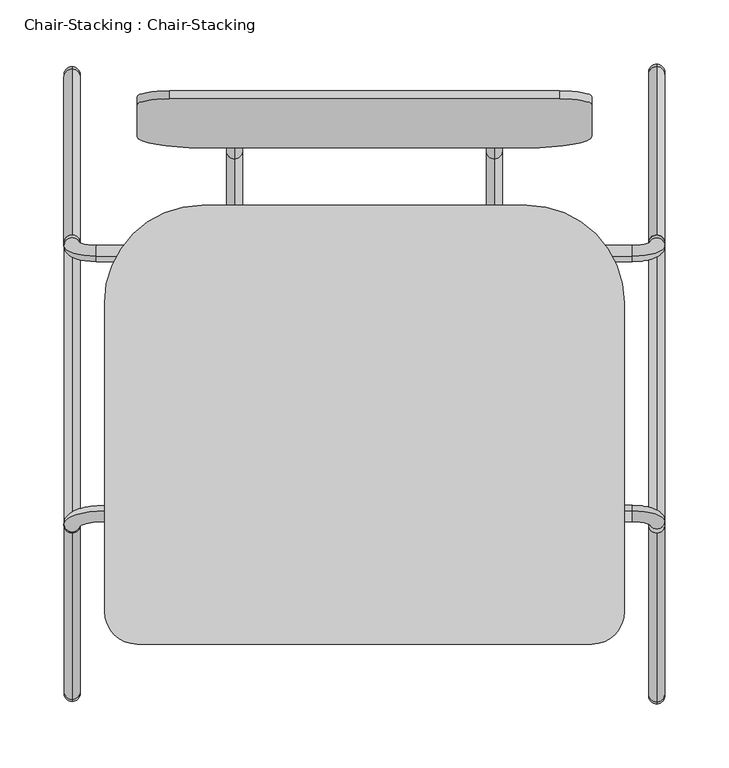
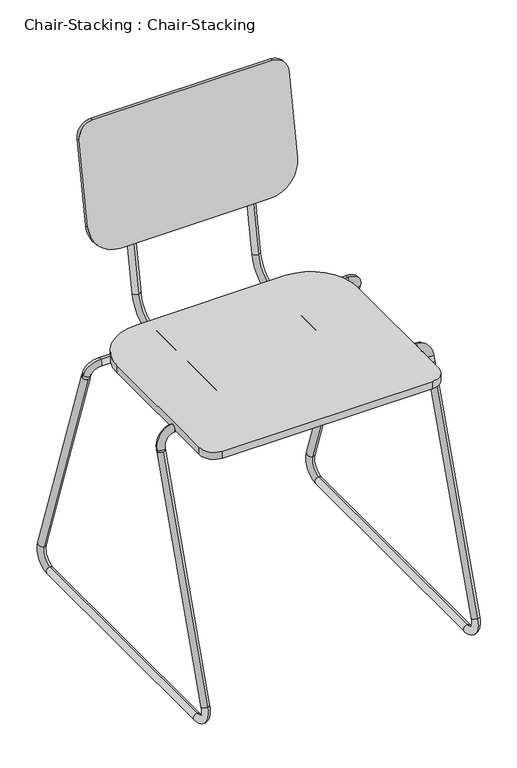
"""IFC4 building model written with IfcOpenShell, lengths in millimetres: furniture geometry, Chair-Stacking : Chair-Stacking."""

import ifcopenshell
import ifcopenshell.guid

model = None  # the IFC model being written
_history = None  # IfcOwnerHistory: only IFC2X3 demands one
_inside = {}  # id of a spatial element -> (the spatial element, [elements in it])
_under = {}  # id of a project, library or spatial element -> (it, [spatial elements below it])
_declared = {}  # id of a project -> (the project, [libraries it declares])
_typed = {}  # id of a type object -> (the type object, [elements of that type])
_made_of = {}  # id of a material, layer set ... -> (it, [elements and type objects made of it])


def new_model(schema):
    """Start an empty IFC model of exactly this schema.

    Asked for "IFC4X3", IfcOpenShell would pick the latest addendum, in which some entities
    have other attributes; the version numbers below select the first issue.
    IFC2X3 requires an IfcOwnerHistory on every rooted entity: one is made here for all.
    """
    global model, _history
    if schema == "IFC4X3":
        model = ifcopenshell.file(schema_version=(4, 3, 0, 0))
    else:
        model = ifcopenshell.file(schema=schema)
    _inside.clear()
    _under.clear()
    _declared.clear()
    _typed.clear()
    _made_of.clear()
    _history = None
    if model.schema == "IFC2X3":
        org = make("IfcOrganization", Name="unknown")
        user = make(
            "IfcPersonAndOrganization",
            ThePerson=make("IfcPerson", FamilyName="unknown"),
            TheOrganization=org,
        )
        app = make(
            "IfcApplication",
            ApplicationDeveloper=org,
            Version="unknown",
            ApplicationFullName="unknown",
            ApplicationIdentifier="unknown",
        )
        _history = make(
            "IfcOwnerHistory",
            OwningUser=user,
            OwningApplication=app,
            ChangeAction="ADDED",
            CreationDate=0,
        )
    return model


def make(cls, **values):
    """One entity of the class cls with the attributes given. An attribute that is None is left unset."""
    return model.create_entity(
        cls, **{name: value for name, value in values.items() if value is not None}
    )


def rooted(cls, **values):
    """An entity with a GlobalId (a new one), such as an element, a storey or a relation."""
    return make(cls, GlobalId=ifcopenshell.guid.new(), OwnerHistory=_history, **values)


def si_unit(unit_type, name, prefix=None):
    """IfcSIUnit, for example si_unit("LENGTHUNIT", "METRE", prefix="MILLI")."""
    return make("IfcSIUnit", UnitType=unit_type, Prefix=prefix, Name=name)


def assignment(units):
    """IfcUnitAssignment: the units of a project."""
    return None if units is None else make("IfcUnitAssignment", Units=units)


def point(xyz):
    """IfcCartesianPoint."""
    return None if xyz is None else make("IfcCartesianPoint", Coordinates=xyz)


def direction(xyz):
    """IfcDirection."""
    return None if xyz is None else make("IfcDirection", DirectionRatios=xyz)


def frame(location, z_axis=None, x_axis=None):
    """IfcAxis2Placement3D, a coordinate frame: its origin and axes. An axis left out is left unset."""
    return make(
        "IfcAxis2Placement3D",
        Location=point(location),
        Axis=direction(z_axis),
        RefDirection=direction(x_axis),
    )


def frame_2d(location, x_axis=None):
    """IfcAxis2Placement2D, a coordinate frame in the plane: its origin and x axis."""
    return make(
        "IfcAxis2Placement2D", Location=point(location), RefDirection=direction(x_axis)
    )


def origin():
    """The frame at (0, 0, 0) with its axes left unset."""
    return frame((0.0, 0.0, 0.0))


def place(relative_to, where):
    """IfcLocalPlacement: puts the frame where relative to a parent placement (None: the world)."""
    return make(
        "IfcLocalPlacement", PlacementRelTo=relative_to, RelativePlacement=where
    )


def context(
    kind, dimensions, precision=None, world=None, true_north=None, identifier=None
):
    """IfcGeometricRepresentationContext, for example the 3D "Model" context."""
    return make(
        "IfcGeometricRepresentationContext",
        ContextIdentifier=identifier,
        ContextType=kind,
        CoordinateSpaceDimension=dimensions,
        Precision=precision,
        WorldCoordinateSystem=world,
        TrueNorth=true_north,
    )


def project(units=None, contexts=None):
    """IfcProject with its units and contexts."""
    return rooted(
        "IfcProject",
        Name="project",
        RepresentationContexts=contexts,
        UnitsInContext=assignment(units),
    )


def spatial(cls, under=None, at=None, **own):
    """A site, building, storey or space (cls), placed at a placement, below another one or the project."""
    s = rooted(cls, ObjectPlacement=at, **own)
    if under is not None:
        _under.setdefault(under.id(), (under, []))[1].append(s)
    return s


def polyline(points):
    """IfcPolyline through the points."""
    return make("IfcPolyline", Points=[point(p) for p in points])


def circle_curve(where, radius):
    """IfcCircle in the frame where."""
    return make("IfcCircle", Position=where, Radius=radius)


def ellipse_curve(where, semi_axis1, semi_axis2):
    """IfcEllipse in the frame where."""
    return make(
        "IfcEllipse", Position=where, SemiAxis1=semi_axis1, SemiAxis2=semi_axis2
    )


def trimmed(basis, trim1, trim2, sense, master):
    """IfcTrimmedCurve: the piece of a basis curve between two trims."""
    return make(
        "IfcTrimmedCurve",
        BasisCurve=basis,
        Trim1=trim1,
        Trim2=trim2,
        SenseAgreement=sense,
        MasterRepresentation=master,
    )


def segment(curve, same_sense, transition):
    """IfcCompositeCurveSegment."""
    return make(
        "IfcCompositeCurveSegment",
        Transition=transition,
        SameSense=same_sense,
        ParentCurve=curve,
    )


def composite_curve(segments, self_intersect=None):
    """IfcCompositeCurve: segments joined end to end."""
    return make("IfcCompositeCurve", Segments=segments, SelfIntersect=self_intersect)


def outline(outer, holes=None, kind="AREA"):
    """IfcArbitraryClosedProfileDef: a profile drawn as a closed curve; with holes, ...WithVoids."""
    if holes is None:
        return make("IfcArbitraryClosedProfileDef", ProfileType=kind, OuterCurve=outer)
    return make(
        "IfcArbitraryProfileDefWithVoids",
        ProfileType=kind,
        OuterCurve=outer,
        InnerCurves=holes,
    )


def extrude(swept, where, along, depth):
    """IfcExtrudedAreaSolid: the profile swept, set in the frame where, extruded along a direction by depth."""
    return make(
        "IfcExtrudedAreaSolid",
        SweptArea=swept,
        Position=where,
        ExtrudedDirection=direction(along),
        Depth=depth,
    )


def shape(context_of_items, identifier, shape_type, items):
    """IfcShapeRepresentation: the items that make up one representation, for example the "Body"."""
    return make(
        "IfcShapeRepresentation",
        ContextOfItems=context_of_items,
        RepresentationIdentifier=identifier,
        RepresentationType=shape_type,
        Items=items,
    )


def source(mapping_origin, context_of_items, identifier, shape_type, items):
    """IfcRepresentationMap: a shape defined once, which mapped items show again and again."""
    return make(
        "IfcRepresentationMap",
        MappingOrigin=mapping_origin,
        MappedRepresentation=shape(context_of_items, identifier, shape_type, items),
    )


def transform(
    local_origin,
    x_axis=None,
    y_axis=None,
    z_axis=None,
    scale=None,
    scale2=None,
    scale3=None,
    uniform=True,
):
    """IfcCartesianTransformationOperator3D, or its non-uniform kind. x_axis, y_axis, z_axis: its Axis1, 2, 3."""
    if uniform:
        return make(
            "IfcCartesianTransformationOperator3D",
            Axis1=direction(x_axis),
            Axis2=direction(y_axis),
            LocalOrigin=point(local_origin),
            Scale=scale,
            Axis3=direction(z_axis),
        )
    return make(
        "IfcCartesianTransformationOperator3DnonUniform",
        Axis1=direction(x_axis),
        Axis2=direction(y_axis),
        LocalOrigin=point(local_origin),
        Scale=scale,
        Axis3=direction(z_axis),
        Scale2=scale2,
        Scale3=scale3,
    )


def mapped(mapping_source, mapping_target):
    """IfcMappedItem: shows the shape of a source again, moved by a transform."""
    return make(
        "IfcMappedItem", MappingSource=mapping_source, MappingTarget=mapping_target
    )


def made_of(thing, what):
    """Note that an element or type object is made of a material, layer set ...; save() writes the relation."""
    if what is not None:
        _made_of.setdefault(what.id(), (what, []))[1].append(thing)
    return thing


def element(
    cls,
    number,
    at=None,
    inside=None,
    cuts=None,
    type_object=None,
    material=None,
    context=None,
    identifier="Body",
    shape_type=None,
    held_by="IfcProductDefinitionShape",
    body=None,
    shapes=None,
    **own,
):
    """One element of the class cls, such as IfcWall. Its Tag is "e" and its number.

    at: its placement. inside: the storey or other place that contains it. cuts: it is an
    opening in that element (IfcRelVoidsElement). A single representation is given by context,
    identifier, shape_type and body (its items); several are given by shapes. held_by: the class
    of the entity that holds the representations. save() writes the other relations.
    """
    e = rooted(cls, Tag="e%d" % number, ObjectPlacement=at, **own)
    if body is not None:
        shapes = [shape(context, identifier, shape_type, body)]
    if shapes is not None:
        e.Representation = make(held_by, Representations=shapes)
    if inside is not None:
        _inside.setdefault(inside.id(), (inside, []))[1].append(e)
    if cuts is not None:
        rooted(
            "IfcRelVoidsElement", RelatingBuildingElement=cuts, RelatedOpeningElement=e
        )
    if type_object is not None:
        _typed.setdefault(type_object.id(), (type_object, []))[1].append(e)
    return made_of(e, material)


def aggregate(whole, parts):
    """IfcRelAggregates: a whole, such as a stair, and the parts it consists of."""
    return rooted("IfcRelAggregates", RelatingObject=whole, RelatedObjects=parts)


def save(model, path):
    """Write the relations noted so far, then the file.

    IfcRelAggregates (storeys below a building ...), IfcRelContainedInSpatialStructure (elements
    in a storey), IfcRelDefinesByType, IfcRelAssociatesMaterial and IfcRelDeclares: one each for
    every whole, place, type object, material and project.
    """
    for whole, parts in _under.values():
        aggregate(whole, parts)
    for where, things in _inside.values():
        rooted(
            "IfcRelContainedInSpatialStructure",
            RelatedElements=things,
            RelatingStructure=where,
        )
    for kind, things in _typed.values():
        rooted("IfcRelDefinesByType", RelatedObjects=things, RelatingType=kind)
    for what, things in _made_of.values():
        rooted("IfcRelAssociatesMaterial", RelatedObjects=things, RelatingMaterial=what)
    for by, libraries in _declared.values():
        rooted("IfcRelDeclares", RelatingContext=by, RelatedDefinitions=libraries)
    model.write(path)


def plane_surface(at):
    """IfcPlane: the flat surface through the origin of the frame at, square to its z axis."""
    return make("IfcPlane", Position=at)


def cylinder_surface(at, radius):
    """IfcCylindricalSurface: all points at the distance radius from the z axis of the frame at."""
    return make("IfcCylindricalSurface", Position=at, Radius=radius)


def revolved_surface(curve, axis_point, axis_direction):
    """IfcSurfaceOfRevolution: the curve turned about the line through axis_point along axis_direction."""
    return make(
        "IfcSurfaceOfRevolution",
        SweptCurve=make("IfcArbitraryOpenProfileDef", ProfileType="CURVE", Curve=curve),
        AxisPosition=make("IfcAxis1Placement", Location=point(axis_point), Axis=direction(axis_direction)),
    )


def advanced_brep(points, edges, surfaces, faces):
    """IfcAdvancedBrep: a solid bounded by faces that lie on surfaces and meet in shared edges.

    An edge is (start, end): straight between two places in points (the first is 0);
    or (start, end, curve); or (start, end, curve, False) where it runs against its curve.
    A face is (place in surfaces, loops), or (place, loops, False) where it looks against
    its surface's normal. A loop lists edges by number (the first is 1), with a minus sign
    where the edge is run from its end to its start. The first loop is the outer one.
    """
    corners = [point(p) for p in points]
    vertices = [make("IfcVertexPoint", VertexGeometry=c) for c in corners]
    made = []
    for start, end, *more in edges:
        made.append(
            make(
                "IfcEdgeCurve",
                EdgeStart=vertices[start],
                EdgeEnd=vertices[end],
                EdgeGeometry=more[0] if more else make("IfcPolyline", Points=[corners[start], corners[end]]),
                SameSense=more[1] if len(more) > 1 else True,
            )
        )
    hull = []
    for where, loops, *sense in faces:
        bounds = []
        for j, loop in enumerate(loops):
            ring = [make("IfcOrientedEdge", EdgeElement=made[abs(k) - 1], Orientation=k > 0) for k in loop]
            bounds.append(
                make(
                    "IfcFaceOuterBound" if j == 0 else "IfcFaceBound",
                    Bound=make("IfcEdgeLoop", EdgeList=ring),
                    Orientation=True,
                )
            )
        hull.append(make("IfcAdvancedFace", Bounds=bounds, FaceSurface=surfaces[where], SameSense=sense[0] if sense else True))
    return make("IfcAdvancedBrep", Outer=make("IfcClosedShell", CfsFaces=hull))


def chair_stacking_chair_stacking_724ac724(model_context):
    return source(origin(), model_context, "Body", "SolidModel", [
        advanced_brep(
        [(-280.6491803, -213.2656675, 431.8), (-280.6491803, -213.2656675, 444.5), (-280.6491803, 23.0277124, 444.5), (-280.6491803, 23.0277124, 431.8), (-280.6491803, 66.802417, 481.2313385), (-280.6491803, 79.3094755, 479.0260066), (-280.6491803, 119.2282049, 705.4163709), (-280.6491803, 106.7211464, 707.6217027)],
        [
            (0, 1, circle_curve(frame((-280.6491803, -213.2656675, 438.15), z_axis=(0.0, -1.0, 0.0), x_axis=(0.0, 0.0, 1.0)), 6.35)),
            (1, 0, circle_curve(frame((-280.6491803, -213.2656675, 438.15), z_axis=(0.0, -1.0, 0.0), x_axis=(0.0, 0.0, 1.0)), 6.35)),
            (1, 2),
            (2, 3, circle_curve(frame((-280.6491803, 23.0277124, 438.15), z_axis=(0.0, -1.0, 0.0), x_axis=(0.0, 0.0, 1.0)), 6.35)),
            (3, 0),
            (3, 2, circle_curve(frame((-280.6491803, 23.0277124, 438.15), z_axis=(0.0, -1.0, 0.0), x_axis=(0.0, 0.0, 1.0)), 6.35)),
            (4, 5, circle_curve(frame((-280.6491803, 73.0559463, 480.1286726), z_axis=(0.0, -0.17364817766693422, -0.9848077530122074), x_axis=(0.0, -0.9848077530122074, 0.17364817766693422)), 6.35)),
            (5, 3, circle_curve(frame((-280.6491803, 23.0277124, 488.95), z_axis=(-1.0, 0.0, 0.0), x_axis=(0.0, 0.0, -1.0)), 57.15)),
            (2, 4, circle_curve(frame((-280.6491803, 23.0277124, 488.95), z_axis=(1.0, 0.0, 0.0), x_axis=(0.0, 0.0, -1.0)), 44.45)),
            (5, 4, circle_curve(frame((-280.6491803, 73.0559463, 480.1286726), z_axis=(0.0, -0.17364817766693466, -0.9848077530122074), x_axis=(0.0, -0.9848077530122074, 0.17364817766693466)), 6.35)),
            (6, 7, circle_curve(frame((-280.6491803, 112.9746757, 706.5190368), z_axis=(0.0, 0.1736481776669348, 0.9848077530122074), x_axis=(0.0, -0.9848077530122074, 0.1736481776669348)), 6.35)),
            (7, 6, circle_curve(frame((-280.6491803, 112.9746757, 706.5190368), z_axis=(0.0, 0.1736481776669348, 0.9848077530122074), x_axis=(0.0, -0.9848077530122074, 0.1736481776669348)), 6.35)),
            (4, 7),
            (6, 5),
        ],
        [
            plane_surface(frame((-286.9991803, -213.2656675, 438.15), z_axis=(0.0, -1.0, 0.0), x_axis=(0.0, 0.0, -1.0))),
            cylinder_surface(frame((-280.6491803, -213.2656675, 438.15), z_axis=(0.0, -1.0, 0.0), x_axis=(0.0, 0.0, 1.0)), 6.35),
            revolved_surface(trimmed(ellipse_curve(frame((-280.6491803, 23.0277124, 438.15), z_axis=(0.0, 1.0, 0.0), x_axis=(0.0, 0.0, 1.0)), 6.35, 6.35), [point((-280.6491803, 23.0277124, 431.8))], [point((-280.6491803, 23.0277124, 444.5))], True, "CARTESIAN"), (-280.6491803, 23.0277124, 488.95), (-1.0, 0.0, 0.0)),
            revolved_surface(trimmed(ellipse_curve(frame((-280.6491803, 23.0277124, 438.15), z_axis=(0.0, 1.0, 0.0), x_axis=(0.0, 0.0, 1.0)), 6.35, 6.35), [point((-280.6491803, 23.0277124, 444.5))], [point((-280.6491803, 23.0277124, 431.8))], True, "CARTESIAN"), (-280.6491803, 23.0277124, 488.95), (-1.0, 0.0, 0.0)),
            plane_surface(frame((-280.6491803, 119.2282049, 705.4163709), z_axis=(0.0, 0.17364817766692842, 0.9848077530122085), x_axis=(1.0, 0.0, 0.0))),
            cylinder_surface(frame((-280.6491803, 73.0559463, 480.1286726), z_axis=(0.0, -0.1736481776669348, -0.9848077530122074), x_axis=(0.0, -0.9848077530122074, 0.1736481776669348)), 6.35),
        ],
        [
            (0, [[1, 2]]),
            (1, [[3, 4, 5, -2]]),
            (1, [[-5, 6, -3, -1]]),
            (2, [[7, 8, -4, 9]]),
            (3, [[10, -9, -6, -8]]),
            (4, [[11, 12]]),
            (5, [[13, -11, 14, -7]]),
            (5, [[-14, -12, -13, -10]]),
        ],
    ),
        advanced_brep(
        [(-77.4491803, -213.2656675, 431.8), (-77.4491803, -213.2656675, 444.5), (-77.4491803, 23.0277124, 444.5), (-77.4491803, 23.0277124, 431.8), (-77.4491803, 66.802417, 481.2313385), (-77.4491803, 79.3094755, 479.0260066), (-77.4491803, 118.9339087, 703.7473341), (-77.4491803, 106.4268502, 705.9526659)],
        [
            (0, 1, circle_curve(frame((-77.4491803, -213.2656675, 438.15), z_axis=(0.0, -1.0, 0.0), x_axis=(0.0, 0.0, 1.0)), 6.35)),
            (1, 0, circle_curve(frame((-77.4491803, -213.2656675, 438.15), z_axis=(0.0, -1.0, 0.0), x_axis=(0.0, 0.0, 1.0)), 6.35)),
            (1, 2),
            (2, 3, circle_curve(frame((-77.4491803, 23.0277124, 438.15), z_axis=(0.0, -1.0, 0.0), x_axis=(0.0, 0.0, 1.0)), 6.35)),
            (3, 0),
            (3, 2, circle_curve(frame((-77.4491803, 23.0277124, 438.15), z_axis=(0.0, -1.0, 0.0), x_axis=(0.0, 0.0, 1.0)), 6.35)),
            (4, 5, circle_curve(frame((-77.4491803, 73.0559463, 480.1286726), z_axis=(0.0, -0.17364817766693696, -0.9848077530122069), x_axis=(0.0, -0.9848077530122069, 0.17364817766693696)), 6.35)),
            (5, 3, circle_curve(frame((-77.4491803, 23.0277124, 488.95), z_axis=(-1.0, 0.0, 0.0), x_axis=(0.0, 0.0, -1.0)), 57.15)),
            (2, 4, circle_curve(frame((-77.4491803, 23.0277124, 488.95), z_axis=(1.0, 0.0, 0.0), x_axis=(0.0, 0.0, -1.0)), 44.45)),
            (5, 4, circle_curve(frame((-77.4491803, 73.0559463, 480.1286726), z_axis=(0.0, -0.17364817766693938, -0.9848077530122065), x_axis=(0.0, -0.9848077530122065, 0.17364817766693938)), 6.35)),
            (6, 7, circle_curve(frame((-77.4491803, 112.6803794, 704.85), z_axis=(0.0, 0.17364817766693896, 0.9848077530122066), x_axis=(0.0, -0.9848077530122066, 0.17364817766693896)), 6.35)),
            (7, 6, circle_curve(frame((-77.4491803, 112.6803794, 704.85), z_axis=(0.0, 0.17364817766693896, 0.9848077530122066), x_axis=(0.0, -0.9848077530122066, 0.17364817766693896)), 6.35)),
            (4, 7),
            (6, 5),
        ],
        [
            plane_surface(frame((-83.7991803, -213.2656675, 438.15), z_axis=(0.0, -1.0, 0.0), x_axis=(0.0, 0.0, -1.0))),
            cylinder_surface(frame((-77.4491803, -213.2656675, 438.15), z_axis=(0.0, -1.0, 0.0), x_axis=(0.0, 0.0, 1.0)), 6.35),
            revolved_surface(trimmed(ellipse_curve(frame((-77.4491803, 23.0277124, 438.15), z_axis=(0.0, 1.0, 0.0), x_axis=(0.0, 0.0, 1.0)), 6.35, 6.35), [point((-77.4491803, 23.0277124, 431.8))], [point((-77.4491803, 23.0277124, 444.5))], True, "CARTESIAN"), (-77.4491803, 23.0277124, 488.95), (-1.0, 0.0, 0.0)),
            revolved_surface(trimmed(ellipse_curve(frame((-77.4491803, 23.0277124, 438.15), z_axis=(0.0, 1.0, 0.0), x_axis=(0.0, 0.0, 1.0)), 6.35, 6.35), [point((-77.4491803, 23.0277124, 444.5))], [point((-77.4491803, 23.0277124, 431.8))], True, "CARTESIAN"), (-77.4491803, 23.0277124, 488.95), (-1.0, 0.0, 0.0)),
            plane_surface(frame((-77.4491803, 118.9339087, 703.7473341), z_axis=(0.0, 0.1736481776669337, 0.9848077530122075), x_axis=(1.0, 0.0, 0.0))),
            cylinder_surface(frame((-77.4491803, 73.0559463, 480.1286726), z_axis=(0.0, -0.17364817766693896, -0.9848077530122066), x_axis=(0.0, -0.9848077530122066, 0.17364817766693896)), 6.35),
        ],
        [
            (0, [[1, 2]]),
            (1, [[3, 4, 5, -2]]),
            (1, [[-5, 6, -3, -1]]),
            (2, [[7, 8, -4, 9]]),
            (3, [[10, -9, -6, -8]]),
            (4, [[11, 12]]),
            (5, [[13, -11, 14, -7]]),
            (5, [[-14, -12, -13, -10]]),
        ],
    ),
        extrude(outline(composite_curve([segment(polyline([(-1.2491803, -312.1314636), (-356.8491803, -312.1314636)]), True, "CONTINUOUS"), segment(trimmed(circle_curve(frame_2d((-356.8491803, -286.7314636)), 25.4), [point((-356.8491803, -312.1314636))], [point((-382.2491803, -286.7314636))], False, "CARTESIAN"), True, "CONTINUOUS"), segment(polyline([(-382.2491803, -286.7314636), (-382.2491803, -45.4314636)]), True, "CONTINUOUS"), segment(trimmed(circle_curve(frame_2d((-306.0491803, -45.4314636)), 76.2), [point((-382.2491803, -45.4314636))], [point((-306.0491803, 30.7685364))], False, "CARTESIAN"), True, "CONTINUOUS"), segment(polyline([(-306.0491803, 30.7685364), (-52.0491803, 30.7685364)]), True, "CONTINUOUS"), segment(trimmed(circle_curve(frame_2d((-52.0491803, -45.4314636)), 76.2), [point((-52.0491803, 30.7685364))], [point((24.1508197, -45.4314636))], False, "CARTESIAN"), True, "CONTINUOUS"), segment(polyline([(24.1508197, -45.4314636), (24.1508197, -286.7314636)]), True, "CONTINUOUS"), segment(trimmed(circle_curve(frame_2d((-1.2491803, -286.7314636)), 25.4), [point((24.1508197, -286.7314636))], [point((-1.2491803, -312.1314636))], False, "CARTESIAN"), True, "CONTINUOUS")], self_intersect=False)), frame((0.0, 0.0, 444.5), z_axis=(0.0, 0.0, 1.0), x_axis=(1.0, 0.0, 0.0)), (0.0, 0.0, 1.0), 12.7),
        extrude(outline(composite_curve([segment(trimmed(circle_curve(frame_2d((-304.8, 25.4)), 25.4), [point((-304.8, 0.0))], [point((-330.2, 25.4))], False, "CARTESIAN"), True, "CONTINUOUS"), segment(polyline([(-330.2, 25.4), (-330.2, 168.3013626)]), True, "CONTINUOUS"), segment(trimmed(circle_curve(frame_2d((-279.4, 168.3013626)), 50.8), [point((-330.2, 168.3013626))], [point((-279.4, 219.1013626))], False, "CARTESIAN"), True, "CONTINUOUS"), segment(polyline([(-279.4, 219.1013626), (-25.4, 219.1013626)]), True, "CONTINUOUS"), segment(trimmed(circle_curve(frame_2d((-25.4, 168.3013626)), 50.8), [point((-25.4, 219.1013626))], [point((25.4, 168.3013626))], False, "CARTESIAN"), True, "CONTINUOUS"), segment(polyline([(25.4, 168.3013626), (25.4, 25.4)]), True, "CONTINUOUS"), segment(trimmed(circle_curve(frame_2d((0.0, 25.4)), 25.4), [point((25.4, 25.4))], [point((0.0, 0.0))], False, "CARTESIAN"), True, "CONTINUOUS"), segment(polyline([(0.0, 0.0), (-304.8, 0.0)]), True, "CONTINUOUS")], self_intersect=False)), frame((-331.4491803, 119.9531376, 782.6640535), z_axis=(0.0, -0.9848077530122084, 0.17364817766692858), x_axis=(-1.0, 0.0, 0.0)), (0.0, 0.0, 1.0), 6.35),
        advanced_brep(
        [(55.9008197, -219.2327758, 419.1211728), (43.2008197, -219.2327758, 419.1211728), (43.2008197, -216.3017292, 427.6700586), (55.9008197, -216.3017292, 427.6700586), (30.5008197, -212.1828103, 439.6835721), (30.5008197, -208.0638914, 451.6970857), (-382.2491803, -212.1828103, 439.6835721), (-382.2491803, -208.0638914, 451.6970857), (-401.2991803, -218.3611887, 421.6633019), (-413.9991803, -218.3611887, 421.6633019), (-413.9991803, -219.2424531, 419.0929473), (-401.2991803, -219.2424531, 419.0929473)],
        [
            (0, 1, circle_curve(frame((49.5508197, -219.2327758, 419.1211728), z_axis=(0.0, -0.32432432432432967, -0.9459459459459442), x_axis=(-1.0, 0.0, 0.0)), 6.35)),
            (1, 0, circle_curve(frame((49.5508197, -219.2327758, 419.1211728), z_axis=(0.0, -0.32432432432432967, -0.9459459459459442), x_axis=(-1.0, 0.0, 0.0)), 6.35)),
            (1, 2),
            (2, 3, circle_curve(frame((49.5508197, -216.3017292, 427.6700586), z_axis=(0.0, -0.32432432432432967, -0.9459459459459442), x_axis=(-1.0, 0.0, 0.0)), 6.35)),
            (3, 0),
            (3, 2, circle_curve(frame((49.5508197, -216.3017292, 427.6700586), z_axis=(0.0, -0.32432432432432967, -0.9459459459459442), x_axis=(-1.0, 0.0, 0.0)), 6.35)),
            (4, 5, circle_curve(frame((30.5008197, -210.1233509, 445.6903289), z_axis=(1.0, 0.0, 0.0), x_axis=(0.0, -0.32432432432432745, -0.9459459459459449)), 6.35)),
            (5, 3, circle_curve(frame((30.5008197, -216.3017292, 427.6700586), z_axis=(0.0, 0.9459459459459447, -0.3243243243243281), x_axis=(1.0, 0.0, 0.0)), 25.4)),
            (2, 4, circle_curve(frame((30.5008197, -216.3017292, 427.6700586), z_axis=(0.0, -0.9459459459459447, 0.3243243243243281), x_axis=(1.0, 0.0, 0.0)), 12.7)),
            (5, 4, circle_curve(frame((30.5008197, -210.1233509, 445.6903289), z_axis=(1.0, 0.0, 0.0), x_axis=(0.0, -0.32432432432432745, -0.9459459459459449)), 6.35)),
            (4, 6),
            (6, 7, circle_curve(frame((-382.2491803, -210.1233509, 445.6903289), z_axis=(1.0, 0.0, 0.0), x_axis=(0.0, -0.32432432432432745, -0.9459459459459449)), 6.35)),
            (7, 5),
            (7, 6, circle_curve(frame((-382.2491803, -210.1233509, 445.6903289), z_axis=(1.0, 0.0, 0.0), x_axis=(0.0, -0.32432432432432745, -0.9459459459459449)), 6.35)),
            (8, 9, circle_curve(frame((-407.6491803, -218.3611887, 421.6633019), z_axis=(0.0, 0.324324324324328, 0.9459459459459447), x_axis=(1.0000000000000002, 0.0, 0.0)), 6.35)),
            (9, 7, circle_curve(frame((-382.2491803, -218.3611887, 421.6633019), z_axis=(0.0, 0.9459459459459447, -0.3243243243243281), x_axis=(0.0, 0.3243243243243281, 0.9459459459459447)), 31.75)),
            (6, 8, circle_curve(frame((-382.2491803, -218.3611887, 421.6633019), z_axis=(0.0, -0.9459459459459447, 0.3243243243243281), x_axis=(0.0, 0.3243243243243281, 0.9459459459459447)), 19.05)),
            (9, 8, circle_curve(frame((-407.6491803, -218.3611887, 421.6633019), z_axis=(0.0, 0.324324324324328, 0.9459459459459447), x_axis=(1.0000000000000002, 0.0, 0.0)), 6.35)),
            (10, 11, circle_curve(frame((-407.6491803, -219.2424531, 419.0929473), z_axis=(0.0, -0.32432432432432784, -0.9459459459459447), x_axis=(1.0, 0.0, 0.0)), 6.35)),
            (11, 10, circle_curve(frame((-407.6491803, -219.2424531, 419.0929473), z_axis=(0.0, -0.32432432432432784, -0.9459459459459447), x_axis=(1.0, 0.0, 0.0)), 6.35)),
            (8, 11),
            (10, 9),
        ],
        [
            plane_surface(frame((49.5508197, -213.226019, 417.0617133), z_axis=(0.0, -0.3243243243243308, -0.9459459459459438), x_axis=(1.0, 0.0, 0.0))),
            cylinder_surface(frame((49.5508197, -219.2327758, 419.1211728), z_axis=(0.0, -0.32432432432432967, -0.9459459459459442), x_axis=(-1.0, 0.0, 0.0)), 6.35),
            revolved_surface(trimmed(ellipse_curve(frame((49.5508197, -216.3017292, 427.6700586), z_axis=(0.0, 0.32432432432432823, 0.9459459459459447), x_axis=(-1.0, 0.0, 0.0)), 6.35, 6.35), [point((55.9008197, -216.3017292, 427.6700586))], [point((43.2008197, -216.3017292, 427.6700586))], True, "CARTESIAN"), (30.5008197, -216.3017292, 427.6700586), (0.0, 0.9459459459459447, -0.3243243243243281)),
            revolved_surface(trimmed(ellipse_curve(frame((49.5508197, -216.3017292, 427.6700586), z_axis=(0.0, 0.32432432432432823, 0.9459459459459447), x_axis=(-1.0, 0.0, 0.0)), 6.35, 6.35), [point((43.2008197, -216.3017292, 427.6700586))], [point((55.9008197, -216.3017292, 427.6700586))], True, "CARTESIAN"), (30.5008197, -216.3017292, 427.6700586), (0.0, 0.9459459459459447, -0.3243243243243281)),
            cylinder_surface(frame((30.5008197, -210.1233509, 445.6903289), z_axis=(1.0000000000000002, 0.0, 0.0), x_axis=(0.0, -0.32432432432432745, -0.9459459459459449)), 6.35),
            revolved_surface(trimmed(ellipse_curve(frame((-382.2491803, -210.1233509, 445.6903289), z_axis=(-1.0000000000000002, 0.0, 0.0), x_axis=(0.0, -0.3243243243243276, -0.9459459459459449)), 6.35, 6.35), [point((-382.2491803, -208.0638914, 451.6970857))], [point((-382.2491803, -212.1828103, 439.6835721))], True, "CARTESIAN"), (-382.2491803, -218.3611887, 421.6633019), (0.0, 0.9459459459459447, -0.3243243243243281)),
            revolved_surface(trimmed(ellipse_curve(frame((-382.2491803, -210.1233509, 445.6903289), z_axis=(-1.0000000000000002, 0.0, 0.0), x_axis=(0.0, -0.3243243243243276, -0.9459459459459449)), 6.35, 6.35), [point((-382.2491803, -212.1828103, 439.6835721))], [point((-382.2491803, -208.0638914, 451.6970857))], True, "CARTESIAN"), (-382.2491803, -218.3611887, 421.6633019), (0.0, 0.9459459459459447, -0.3243243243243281)),
            plane_surface(frame((-407.6491803, -225.2492099, 421.1524068), z_axis=(0.0, -0.32432432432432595, -0.9459459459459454), x_axis=(1.0, 0.0, 0.0))),
            cylinder_surface(frame((-407.6491803, -218.3611887, 421.6633019), z_axis=(0.0, 0.32432432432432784, 0.9459459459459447), x_axis=(1.0, 0.0, 0.0)), 6.35),
        ],
        [
            (0, [[1, 2]]),
            (1, [[3, 4, 5, -2]]),
            (1, [[-5, 6, -3, -1]]),
            (2, [[7, 8, -4, 9]]),
            (3, [[10, -9, -6, -8]]),
            (4, [[11, 12, 13, -7]]),
            (4, [[-13, 14, -11, -10]]),
            (5, [[15, 16, -12, 17]]),
            (6, [[18, -17, -14, -16]]),
            (7, [[19, 20]]),
            (8, [[21, -19, 22, -15]]),
            (8, [[-22, -20, -21, -18]]),
        ],
    ),
        advanced_brep(
        [(55.9008197, 1.3812406, 419.0879461), (43.2008197, 1.3812406, 419.0879461), (43.2008197, -0.7944914, 425.4338312), (55.9008197, -0.7944914, 425.4338312), (30.5008197, -4.9134104, 437.4473447), (30.5008197, -9.0323293, 449.4608582), (-388.5991803, -4.9134104, 437.4473447), (-388.5991803, -9.0323293, 449.4608582), (-401.2991803, -0.7944914, 425.4338312), (-413.9991803, -0.7944914, 425.4338312), (-413.9991803, 1.3997864, 419.0338542), (-401.2991803, 1.3997864, 419.0338542)],
        [
            (0, 1, circle_curve(frame((49.5508197, 1.3812406, 419.0879461), z_axis=(0.0, 0.3243243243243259, -0.9459459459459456), x_axis=(-1.0, 0.0, 0.0)), 6.35)),
            (1, 0, circle_curve(frame((49.5508197, 1.3812406, 419.0879461), z_axis=(0.0, 0.3243243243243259, -0.9459459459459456), x_axis=(-1.0, 0.0, 0.0)), 6.35)),
            (1, 2),
            (2, 3, circle_curve(frame((49.5508197, -0.7944914, 425.4338312), z_axis=(0.0, 0.3243243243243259, -0.9459459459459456), x_axis=(-1.0, 0.0, 0.0)), 6.35)),
            (3, 0),
            (3, 2, circle_curve(frame((49.5508197, -0.7944914, 425.4338312), z_axis=(0.0, 0.3243243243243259, -0.9459459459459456), x_axis=(-1.0, 0.0, 0.0)), 6.35)),
            (4, 5, circle_curve(frame((30.5008197, -6.9728698, 443.4541014), z_axis=(1.0, 0.0, 0.0), x_axis=(0.0, 0.3243243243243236, -0.9459459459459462)), 6.35)),
            (5, 3, circle_curve(frame((30.5008197, -0.7944914, 425.4338312), z_axis=(0.0, 0.9459459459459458, 0.3243243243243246), x_axis=(1.0, 0.0, 0.0)), 25.4)),
            (2, 4, circle_curve(frame((30.5008197, -0.7944914, 425.4338312), z_axis=(0.0, -0.9459459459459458, -0.3243243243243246), x_axis=(1.0, 0.0, 0.0)), 12.7)),
            (5, 4, circle_curve(frame((30.5008197, -6.9728698, 443.4541014), z_axis=(1.0, 0.0, 0.0), x_axis=(0.0, 0.3243243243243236, -0.9459459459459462)), 6.35)),
            (4, 6),
            (6, 7, circle_curve(frame((-388.5991803, -6.9728698, 443.4541014), z_axis=(1.0, 0.0, 0.0), x_axis=(0.0, 0.3243243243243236, -0.9459459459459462)), 6.35)),
            (7, 5),
            (7, 6, circle_curve(frame((-388.5991803, -6.9728698, 443.4541014), z_axis=(1.0, 0.0, 0.0), x_axis=(0.0, 0.3243243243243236, -0.9459459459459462)), 6.35)),
            (8, 9, circle_curve(frame((-407.6491803, -0.7944914, 425.4338312), z_axis=(0.0, -0.3243243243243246, 0.9459459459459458), x_axis=(1.0, 0.0, 0.0)), 6.35)),
            (9, 7, circle_curve(frame((-388.5991803, -0.7944914, 425.4338312), z_axis=(0.0, 0.9459459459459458, 0.3243243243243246), x_axis=(0.0, -0.3243243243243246, 0.9459459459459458)), 25.4)),
            (6, 8, circle_curve(frame((-388.5991803, -0.7944914, 425.4338312), z_axis=(0.0, -0.9459459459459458, -0.3243243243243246), x_axis=(0.0, -0.3243243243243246, 0.9459459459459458)), 12.7)),
            (9, 8, circle_curve(frame((-407.6491803, -0.7944914, 425.4338312), z_axis=(0.0, -0.3243243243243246, 0.9459459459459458), x_axis=(1.0, 0.0, 0.0)), 6.35)),
            (10, 11, circle_curve(frame((-407.6491803, 1.3997864, 419.0338542), z_axis=(0.0, 0.32432432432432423, -0.9459459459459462), x_axis=(1.0, 0.0, 0.0)), 6.35)),
            (11, 10, circle_curve(frame((-407.6491803, 1.3997864, 419.0338542), z_axis=(0.0, 0.32432432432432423, -0.9459459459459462), x_axis=(1.0, 0.0, 0.0)), 6.35)),
            (8, 11),
            (10, 9),
        ],
        [
            plane_surface(frame((49.5508197, 7.3879973, 421.1474055), z_axis=(0.0, 0.32432432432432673, -0.9459459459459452), x_axis=(1.0, 0.0, 0.0))),
            cylinder_surface(frame((49.5508197, 1.3812406, 419.0879461), z_axis=(0.0, 0.32432432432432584, -0.9459459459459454), x_axis=(-1.0, 0.0, 0.0)), 6.35),
            revolved_surface(trimmed(ellipse_curve(frame((49.5508197, -0.7944914, 425.4338312), z_axis=(0.0, -0.3243243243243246, 0.9459459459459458), x_axis=(-1.0, 0.0, 0.0)), 6.35, 6.35), [point((55.9008197, -0.7944914, 425.4338312))], [point((43.2008197, -0.7944914, 425.4338312))], True, "CARTESIAN"), (30.5008197, -0.7944914, 425.4338312), (0.0, 0.9459459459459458, 0.3243243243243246)),
            revolved_surface(trimmed(ellipse_curve(frame((49.5508197, -0.7944914, 425.4338312), z_axis=(0.0, -0.3243243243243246, 0.9459459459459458), x_axis=(-1.0, 0.0, 0.0)), 6.35, 6.35), [point((43.2008197, -0.7944914, 425.4338312))], [point((55.9008197, -0.7944914, 425.4338312))], True, "CARTESIAN"), (30.5008197, -0.7944914, 425.4338312), (0.0, 0.9459459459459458, 0.3243243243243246)),
            cylinder_surface(frame((30.5008197, -6.9728698, 443.4541014), z_axis=(1.0, 0.0, 0.0), x_axis=(0.0, 0.3243243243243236, -0.9459459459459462)), 6.35),
            revolved_surface(trimmed(ellipse_curve(frame((-388.5991803, -6.9728698, 443.4541014), z_axis=(-1.0, 0.0, 0.0), x_axis=(0.0, 0.3243243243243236, -0.9459459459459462)), 6.35, 6.35), [point((-388.5991803, -9.0323293, 449.4608582))], [point((-388.5991803, -4.9134104, 437.4473447))], True, "CARTESIAN"), (-388.5991803, -0.7944914, 425.4338312), (0.0, 0.9459459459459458, 0.3243243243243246)),
            revolved_surface(trimmed(ellipse_curve(frame((-388.5991803, -6.9728698, 443.4541014), z_axis=(-1.0, 0.0, 0.0), x_axis=(0.0, 0.3243243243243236, -0.9459459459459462)), 6.35, 6.35), [point((-388.5991803, -4.9134104, 437.4473447))], [point((-388.5991803, -9.0323293, 449.4608582))], True, "CARTESIAN"), (-388.5991803, -0.7944914, 425.4338312), (0.0, 0.9459459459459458, 0.3243243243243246)),
            plane_surface(frame((-407.6491803, -4.6069704, 416.9743947), z_axis=(0.0, 0.32432432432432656, -0.9459459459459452), x_axis=(1.0, 0.0, 0.0))),
            cylinder_surface(frame((-407.6491803, -0.7944914, 425.4338312), z_axis=(0.0, -0.3243243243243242, 0.9459459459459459), x_axis=(1.0, 0.0, 0.0)), 6.35),
        ],
        [
            (0, [[1, 2]]),
            (1, [[3, 4, 5, -2]]),
            (1, [[-5, 6, -3, -1]]),
            (2, [[7, 8, -4, 9]]),
            (3, [[10, -9, -6, -8]]),
            (4, [[11, 12, 13, -7]]),
            (4, [[-13, 14, -11, -10]]),
            (5, [[15, 16, -12, 17]]),
            (6, [[18, -17, -14, -16]]),
            (7, [[19, 20]]),
            (8, [[21, -19, 22, -15]]),
            (8, [[-22, -20, -21, -18]]),
        ],
    ),
        advanced_brep(
        [(-407.6491803, -225.2492099, 421.1524068), (-407.6491803, -213.2356963, 417.0334879), (-407.6491803, -343.214591, 37.9283784), (-407.6491803, -355.2281045, 42.0472973), (-407.6491803, -325.1943208, 12.7), (-407.6491803, -325.1943208, 0.0), (-407.6491803, 107.3313935, 12.7), (-407.6491803, 107.3313935, 0.0), (-407.6491803, 125.3516638, 37.9283784), (-407.6491803, 137.3651773, 42.0472973), (-407.6491803, 7.4065431, 421.0933136), (-407.6491803, -4.6069704, 416.9743947)],
        [
            (0, 1, circle_curve(frame((-407.6491803, -219.2424531, 419.0929473), z_axis=(0.0, 0.3243243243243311, 0.9459459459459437), x_axis=(0.0, 0.9459459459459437, -0.3243243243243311)), 6.35)),
            (1, 0, circle_curve(frame((-407.6491803, -219.2424531, 419.0929473), z_axis=(0.0, 0.3243243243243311, 0.9459459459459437), x_axis=(0.0, 0.9459459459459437, -0.3243243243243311)), 6.35)),
            (1, 2),
            (2, 3, circle_curve(frame((-407.6491803, -349.2213478, 39.9878378), z_axis=(0.0, 0.3243243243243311, 0.9459459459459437), x_axis=(0.0, 0.9459459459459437, -0.3243243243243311)), 6.35)),
            (3, 0),
            (3, 2, circle_curve(frame((-407.6491803, -349.2213478, 39.9878378), z_axis=(0.0, 0.3243243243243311, 0.9459459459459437), x_axis=(0.0, 0.9459459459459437, -0.3243243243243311)), 6.35)),
            (4, 5, circle_curve(frame((-407.6491803, -325.1943208, 6.35), z_axis=(0.0, -1.0, 0.0), x_axis=(0.0, 0.0, 1.0)), 6.35)),
            (5, 3, circle_curve(frame((-407.6491803, -325.1943208, 31.75), z_axis=(-1.0, 0.0, 0.0), x_axis=(0.0, -0.9459459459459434, 0.3243243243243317)), 31.75)),
            (2, 4, circle_curve(frame((-407.6491803, -325.1943208, 31.75), z_axis=(1.0, 0.0, 0.0), x_axis=(0.0, -0.9459459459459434, 0.3243243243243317)), 19.05)),
            (5, 4, circle_curve(frame((-407.6491803, -325.1943208, 6.35), z_axis=(0.0, -0.9999999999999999, 0.0), x_axis=(0.0, 0.0, 0.9999999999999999)), 6.35)),
            (4, 6),
            (6, 7, circle_curve(frame((-407.6491803, 107.3313935, 6.35), z_axis=(0.0, -1.0, 0.0), x_axis=(0.0, 0.0, 1.0)), 6.35)),
            (7, 5),
            (7, 6, circle_curve(frame((-407.6491803, 107.3313935, 6.35), z_axis=(0.0, -1.0, 0.0), x_axis=(0.0, 0.0, 1.0)), 6.35)),
            (8, 9, circle_curve(frame((-407.6491803, 131.3584206, 39.9878378), z_axis=(0.0, 0.3243243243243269, -0.945945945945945), x_axis=(0.0, -0.945945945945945, -0.3243243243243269)), 6.35)),
            (9, 7, circle_curve(frame((-407.6491803, 107.3313935, 31.75), z_axis=(-1.0, 0.0, 0.0), x_axis=(0.0, 0.0, -1.0)), 31.75)),
            (6, 8, circle_curve(frame((-407.6491803, 107.3313935, 31.75), z_axis=(1.0, 0.0, 0.0), x_axis=(0.0, 0.0, -1.0)), 19.05)),
            (9, 8, circle_curve(frame((-407.6491803, 131.3584206, 39.9878378), z_axis=(0.0, 0.3243243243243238, -0.9459459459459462), x_axis=(0.0, -0.9459459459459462, -0.3243243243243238)), 6.35)),
            (10, 11, circle_curve(frame((-407.6491803, 1.3997864, 419.0338542), z_axis=(0.0, -0.3243243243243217, 0.9459459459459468), x_axis=(0.0, -0.9459459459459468, -0.3243243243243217)), 6.35)),
            (11, 10, circle_curve(frame((-407.6491803, 1.3997864, 419.0338542), z_axis=(0.0, -0.3243243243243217, 0.9459459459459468), x_axis=(0.0, -0.9459459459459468, -0.3243243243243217)), 6.35)),
            (8, 11),
            (10, 9),
        ],
        [
            plane_surface(frame((-407.6491803, -225.2492099, 421.1524068), z_axis=(0.0, 0.32432432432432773, 0.9459459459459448), x_axis=(1.0, 0.0, 0.0))),
            cylinder_surface(frame((-407.6491803, -219.2424531, 419.0929473), z_axis=(0.0, 0.3243243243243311, 0.9459459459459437), x_axis=(0.0, 0.9459459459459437, -0.3243243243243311)), 6.35),
            revolved_surface(trimmed(ellipse_curve(frame((-407.6491803, -349.2213478, 39.9878378), z_axis=(0.0, -0.3243243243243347, -0.9459459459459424), x_axis=(0.0, 0.9459459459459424, -0.3243243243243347)), 6.35, 6.35), [point((-407.6491803, -355.2281045, 42.0472973))], [point((-407.6491803, -343.214591, 37.9283784))], True, "CARTESIAN"), (-407.6491803, -325.1943208, 31.75), (-1.0, 0.0, 0.0)),
            revolved_surface(trimmed(ellipse_curve(frame((-407.6491803, -349.2213478, 39.9878378), z_axis=(0.0, -0.3243243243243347, -0.9459459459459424), x_axis=(0.0, 0.9459459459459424, -0.3243243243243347)), 6.35, 6.35), [point((-407.6491803, -343.214591, 37.9283784))], [point((-407.6491803, -355.2281045, 42.0472973))], True, "CARTESIAN"), (-407.6491803, -325.1943208, 31.75), (-1.0, 0.0, 0.0)),
            cylinder_surface(frame((-407.6491803, -325.1943208, 6.35), z_axis=(0.0, -1.0, 0.0), x_axis=(0.0, 0.0, 1.0)), 6.35),
            revolved_surface(trimmed(ellipse_curve(frame((-407.6491803, 107.3313935, 6.35), z_axis=(0.0, 1.0, 0.0), x_axis=(0.0, 0.0, 1.0)), 6.35, 6.35), [point((-407.6491803, 107.3313935, 0.0))], [point((-407.6491803, 107.3313935, 12.7))], True, "CARTESIAN"), (-407.6491803, 107.3313935, 31.75), (-1.0, 0.0, 0.0)),
            revolved_surface(trimmed(ellipse_curve(frame((-407.6491803, 107.3313935, 6.35), z_axis=(0.0, 1.0, 0.0), x_axis=(0.0, 0.0, 1.0)), 6.35, 6.35), [point((-407.6491803, 107.3313935, 12.7))], [point((-407.6491803, 107.3313935, 0.0))], True, "CARTESIAN"), (-407.6491803, 107.3313935, 31.75), (-1.0, 0.0, 0.0)),
            plane_surface(frame((-407.6491803, 7.4065431, 421.0933136), z_axis=(0.0, -0.324324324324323, 0.9459459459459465), x_axis=(1.0, 0.0, 0.0))),
            cylinder_surface(frame((-407.6491803, 131.3584206, 39.9878378), z_axis=(0.0, 0.3243243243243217, -0.9459459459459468), x_axis=(0.0, -0.9459459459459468, -0.3243243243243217)), 6.35),
        ],
        [
            (0, [[1, 2]]),
            (1, [[3, 4, 5, -2]]),
            (1, [[-5, 6, -3, -1]]),
            (2, [[7, 8, -4, 9]]),
            (3, [[10, -9, -6, -8]]),
            (4, [[11, 12, 13, -7]]),
            (4, [[-13, 14, -11, -10]]),
            (5, [[15, 16, -12, 17]]),
            (6, [[18, -17, -14, -16]]),
            (7, [[19, 20]]),
            (8, [[21, -19, 22, -15]]),
            (8, [[-22, -20, -21, -18]]),
        ],
    ),
        advanced_brep(
        [(49.5508197, -225.2597598, 421.1875673), (49.5508197, -213.2656675, 417.0124327), (49.5508197, -345.1951918, 38.0127019), (49.5508197, -357.1892841, 42.1878365), (49.5508197, -327.2040533, 12.7), (49.5508197, -327.2040533, 0.0), (49.5508197, 109.3411268, 12.7), (49.5508197, 109.3411268, 0.0), (49.5508197, 127.3337908, 38.0083179), (49.5508197, 139.3289001, 42.1805298), (49.5508197, 7.5008737, 421.186106), (49.5508197, -4.4942357, 417.013894)],
        [
            (0, 1, circle_curve(frame((49.5508197, -219.2627136, 419.1), z_axis=(0.0, 0.3287507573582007, 0.9444167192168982), x_axis=(0.0, 0.9444167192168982, -0.3287507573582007)), 6.35)),
            (1, 0, circle_curve(frame((49.5508197, -219.2627136, 419.1), z_axis=(0.0, 0.3287507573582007, 0.9444167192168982), x_axis=(0.0, 0.9444167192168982, -0.3287507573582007)), 6.35)),
            (1, 2),
            (2, 3, circle_curve(frame((49.5508197, -351.1922379, 40.1002692), z_axis=(0.0, 0.3287507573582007, 0.9444167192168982), x_axis=(0.0, 0.9444167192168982, -0.3287507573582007)), 6.35)),
            (3, 0),
            (3, 2, circle_curve(frame((49.5508197, -351.1922379, 40.1002692), z_axis=(0.0, 0.3287507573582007, 0.9444167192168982), x_axis=(0.0, 0.9444167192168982, -0.3287507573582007)), 6.35)),
            (4, 5, circle_curve(frame((49.5508197, -327.2040533, 6.35), z_axis=(0.0, -1.0, 0.0), x_axis=(0.0, 0.0, 1.0)), 6.35)),
            (5, 3, circle_curve(frame((49.5508197, -327.2040533, 31.75), z_axis=(-1.0, 0.0, 0.0), x_axis=(0.0, -0.9444167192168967, 0.3287507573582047)), 31.75)),
            (2, 4, circle_curve(frame((49.5508197, -327.2040533, 31.75), z_axis=(1.0, 0.0, 0.0), x_axis=(0.0, -0.9444167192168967, 0.3287507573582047)), 19.05)),
            (5, 4, circle_curve(frame((49.5508197, -327.2040533, 6.35), z_axis=(0.0, -1.0, 0.0), x_axis=(0.0, 0.0, 1.0)), 6.35)),
            (4, 6),
            (6, 7, circle_curve(frame((49.5508197, 109.3411268, 6.35), z_axis=(0.0, -1.0, 0.0), x_axis=(0.0, 0.0, 1.0)), 6.35)),
            (7, 5),
            (7, 6, circle_curve(frame((49.5508197, 109.3411268, 6.35), z_axis=(0.0, -1.0, 0.0), x_axis=(0.0, 0.0, 1.0)), 6.35)),
            (8, 9, circle_curve(frame((49.5508197, 133.3313455, 40.0944239), z_axis=(0.0, 0.3285206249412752, -0.9444967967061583), x_axis=(0.0, -0.9444967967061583, -0.3285206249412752)), 6.35)),
            (9, 7, circle_curve(frame((49.5508197, 109.3411268, 31.75), z_axis=(-1.0, 0.0, 0.0), x_axis=(0.0, 0.0, -1.0)), 31.75)),
            (6, 8, circle_curve(frame((49.5508197, 109.3411268, 31.75), z_axis=(1.0, 0.0, 0.0), x_axis=(0.0, 0.0, -1.0)), 19.05)),
            (9, 8, circle_curve(frame((49.5508197, 133.3313455, 40.0944239), z_axis=(0.0, 0.3285206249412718, -0.9444967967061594), x_axis=(0.0, -0.9444967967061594, -0.3285206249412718)), 6.35)),
            (10, 11, circle_curve(frame((49.5508197, 1.503319, 419.1), z_axis=(0.0, -0.3285206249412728, 0.9444967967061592), x_axis=(0.0, -0.9444967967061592, -0.3285206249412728)), 6.35)),
            (11, 10, circle_curve(frame((49.5508197, 1.503319, 419.1), z_axis=(0.0, -0.3285206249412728, 0.9444967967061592), x_axis=(0.0, -0.9444967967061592, -0.3285206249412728)), 6.35)),
            (8, 11),
            (10, 9),
        ],
        [
            plane_surface(frame((49.5508197, -225.2597598, 421.1875673), z_axis=(0.0, 0.3287507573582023, 0.9444167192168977), x_axis=(1.0, 0.0, 0.0))),
            cylinder_surface(frame((49.5508197, -219.2627136, 419.1), z_axis=(0.0, 0.3287507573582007, 0.9444167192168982), x_axis=(0.0, 0.9444167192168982, -0.3287507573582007)), 6.35),
            revolved_surface(trimmed(ellipse_curve(frame((49.5508197, -351.1922379, 40.1002692), z_axis=(0.0, -0.32875075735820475, -0.9444167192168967), x_axis=(0.0, 0.9444167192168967, -0.32875075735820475)), 6.35, 6.35), [point((49.5508197, -357.1892841, 42.1878365))], [point((49.5508197, -345.1951918, 38.0127019))], True, "CARTESIAN"), (49.5508197, -327.2040533, 31.75), (-1.0, 0.0, 0.0)),
            revolved_surface(trimmed(ellipse_curve(frame((49.5508197, -351.1922379, 40.1002692), z_axis=(0.0, -0.32875075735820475, -0.9444167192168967), x_axis=(0.0, 0.9444167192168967, -0.32875075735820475)), 6.35, 6.35), [point((49.5508197, -345.1951918, 38.0127019))], [point((49.5508197, -357.1892841, 42.1878365))], True, "CARTESIAN"), (49.5508197, -327.2040533, 31.75), (-1.0, 0.0, 0.0)),
            cylinder_surface(frame((49.5508197, -327.2040533, 6.35), z_axis=(0.0, -1.0, 0.0), x_axis=(0.0, 0.0, 1.0)), 6.35),
            revolved_surface(trimmed(ellipse_curve(frame((49.5508197, 109.3411268, 6.35), z_axis=(0.0, 1.0, 0.0), x_axis=(0.0, 0.0, 1.0)), 6.35, 6.35), [point((49.5508197, 109.3411268, 0.0))], [point((49.5508197, 109.3411268, 12.7))], True, "CARTESIAN"), (49.5508197, 109.3411268, 31.75), (-1.0, 0.0, 0.0)),
            revolved_surface(trimmed(ellipse_curve(frame((49.5508197, 109.3411268, 6.35), z_axis=(0.0, 1.0, 0.0), x_axis=(0.0, 0.0, 1.0)), 6.35, 6.35), [point((49.5508197, 109.3411268, 12.7))], [point((49.5508197, 109.3411268, 0.0))], True, "CARTESIAN"), (49.5508197, 109.3411268, 31.75), (-1.0, 0.0, 0.0)),
            plane_surface(frame((49.5508197, 7.5008737, 421.186106), z_axis=(0.0, -0.3285206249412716, 0.9444967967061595), x_axis=(1.0, 0.0, 0.0))),
            cylinder_surface(frame((49.5508197, 133.3313455, 40.0944239), z_axis=(0.0, 0.3285206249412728, -0.9444967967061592), x_axis=(0.0, -0.9444967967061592, -0.3285206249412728)), 6.35),
        ],
        [
            (0, [[1, 2]]),
            (1, [[3, 4, 5, -2]]),
            (1, [[-5, 6, -3, -1]]),
            (2, [[7, 8, -4, 9]]),
            (3, [[10, -9, -6, -8]]),
            (4, [[11, 12, 13, -7]]),
            (4, [[-13, 14, -11, -10]]),
            (5, [[15, 16, -12, 17]]),
            (6, [[18, -17, -14, -16]]),
            (7, [[19, 20]]),
            (8, [[21, -19, 22, -15]]),
            (8, [[-22, -20, -21, -18]]),
        ],
    ),
    ])


if __name__ == "__main__":
    model = new_model("IFC4")
    model_context = context("Model", 3, world=origin())
    ifc_project = project(units=[si_unit("LENGTHUNIT", "METRE", prefix="MILLI")], contexts=[model_context])
    site = spatial("IfcSite", under=ifc_project)
    building = spatial("IfcBuilding", under=site)
    placement = place(None, origin())
    chair_stacking_chair_stacking_shape = chair_stacking_chair_stacking_724ac724(model_context)
    element("IfcFurniture", 1, ObjectType="Chair-Stacking : Chair-Stacking", at=placement, inside=building, context=model_context, shape_type="MappedRepresentation", body=[
        mapped(chair_stacking_chair_stacking_shape, transform((0.0, 0.0, 0.0), x_axis=(1.0, 0.0, 0.0), y_axis=(0.0, 1.0, 0.0), z_axis=(0.0, 0.0, 1.0))),
    ])
    save(model, "model.ifc")
